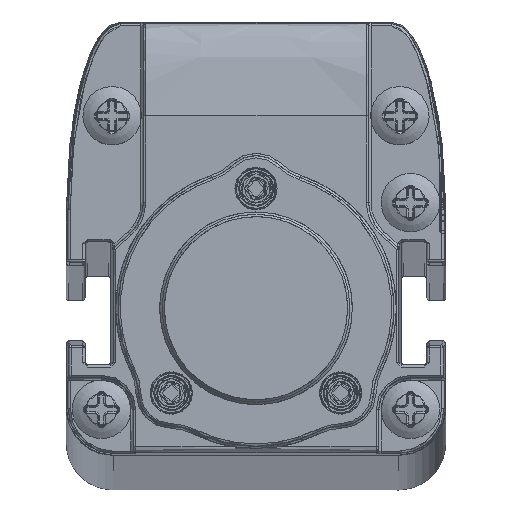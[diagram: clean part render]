
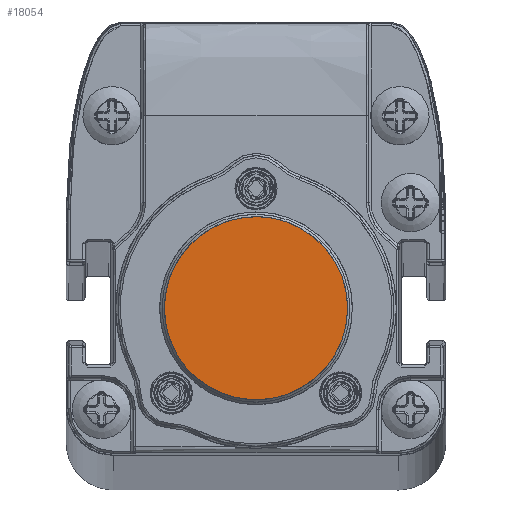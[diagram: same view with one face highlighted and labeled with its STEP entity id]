
A CAD part, top view. The second image highlights one B-rep face of the part: STEP entity #18054.
In plain terms, the highlighted planar face has unit normal (0, 0, 1).
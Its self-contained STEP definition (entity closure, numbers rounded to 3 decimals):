
#15286=B_SPLINE_CURVE_WITH_KNOTS('',3,(#63465,#63466,#63467,#63468,#63469,
#63470,#63471,#63472,#63473,#63474,#63475,#63476,#63477,#63478,#63479,#63480,
#63481,#63482,#63483,#63484,#63485,#63486,#63487,#63488,#63489,#63490,#63491,
#63492,#63493,#63494,#63495,#63496,#63497,#63498,#63499,#63500,#63501,#63502,
#63503,#63504,#63505,#63506,#63507,#63508,#63509,#63510,#63511,#63512,#63513,
#63514,#63515,#63516,#63517,#63518,#63519,#63520,#63521,#63522,#63523,#63524,
#63525,#63526,#63527,#63528,#63529,#63530,#63531,#63532,#63533,#63534,#63535,
#63536,#63537,#63538,#63539,#63540,#63541,#63542,#63543,#63544,#63545,#63546,
#63547,#63548,#63549,#63550,#63551,#63552,#63553,#63554,#63555,#63556,#63557,
#63558,#63559,#63560,#63561,#63562,#63563,#63564,#63565,#63566,#63567),
 .UNSPECIFIED.,.T.,.F.,(1,3,3,3,3,3,3,3,3,3,3,3,3,3,3,3,3,3,3,3,3,3,3,3,
3,3,3,3,3,3,3,3,3,3,3,3,1),(-0.029,0.,0.029,0.059,
0.088,0.118,0.147,0.176,
0.206,0.235,0.265,0.294,
0.324,0.353,0.382,0.412,
0.441,0.471,0.5,0.529,0.559,
0.588,0.618,0.647,0.676,
0.706,0.735,0.765,0.794,
0.824,0.853,0.882,0.912,
0.941,0.971,1.,1.029),.UNSPECIFIED.);
#18054=ADVANCED_FACE('',(#20055),#18952,.T.);
#18952=PLANE('',#43476);
#20055=FACE_OUTER_BOUND('',#21537,.T.);
#21537=EDGE_LOOP('',(#27874));
#27874=ORIENTED_EDGE('',*,*,#36843,.T.);
#31910=VERTEX_POINT('',#63568);
#36843=EDGE_CURVE('',#31910,#31910,#15286,.T.);
#43476=AXIS2_PLACEMENT_3D('',#63569,#47426,#47427);
#47426=DIRECTION('',(0.,0.,1.));
#47427=DIRECTION('',(1.,0.,0.));
#63465=CARTESIAN_POINT('',(7.8,0.,1733.34));
#63466=CARTESIAN_POINT('',(7.8,0.465,1733.34));
#63467=CARTESIAN_POINT('',(7.759,0.925,1733.34));
#63468=CARTESIAN_POINT('',(7.679,1.376,1733.34));
#63469=CARTESIAN_POINT('',(7.638,1.601,1733.34));
#63470=CARTESIAN_POINT('',(7.588,1.825,1733.34));
#63471=CARTESIAN_POINT('',(7.527,2.047,1733.34));
#63472=CARTESIAN_POINT('',(7.466,2.269,1733.34));
#63473=CARTESIAN_POINT('',(7.407,2.458,1733.34));
#63474=CARTESIAN_POINT('',(7.315,2.708,1733.34));
#63475=CARTESIAN_POINT('',(7.129,3.209,1733.34));
#63476=CARTESIAN_POINT('',(6.898,3.683,1733.34));
#63477=CARTESIAN_POINT('',(6.62,4.128,1733.34));
#63478=CARTESIAN_POINT('',(6.343,4.573,1733.34));
#63479=CARTESIAN_POINT('',(6.043,4.965,1733.34));
#63480=CARTESIAN_POINT('',(5.651,5.376,1733.34));
#63481=CARTESIAN_POINT('',(4.868,6.2,1733.34));
#63482=CARTESIAN_POINT('',(3.912,6.837,1733.34));
#63483=CARTESIAN_POINT('',(2.89,7.245,1733.34));
#63484=CARTESIAN_POINT('',(2.378,7.449,1733.34));
#63485=CARTESIAN_POINT('',(1.856,7.597,1733.34));
#63486=CARTESIAN_POINT('',(1.324,7.689,1733.34));
#63487=CARTESIAN_POINT('',(1.058,7.734,1733.34));
#63488=CARTESIAN_POINT('',(0.79,7.766,1733.34));
#63489=CARTESIAN_POINT('',(0.52,7.784,1733.34));
#63490=CARTESIAN_POINT('',(0.249,7.801,1733.34));
#63491=CARTESIAN_POINT('',(-0.055,7.804,1733.34));
#63492=CARTESIAN_POINT('',(-0.3,7.794,1733.34));
#63493=CARTESIAN_POINT('',(-0.79,7.775,1733.34));
#63494=CARTESIAN_POINT('',(-1.271,7.712,1733.34));
#63495=CARTESIAN_POINT('',(-1.742,7.604,1733.34));
#63496=CARTESIAN_POINT('',(-2.213,7.496,1733.34));
#63497=CARTESIAN_POINT('',(-2.713,7.327,1733.34));
#63498=CARTESIAN_POINT('',(-3.123,7.147,1733.34));
#63499=CARTESIAN_POINT('',(-3.534,6.968,1733.34));
#63500=CARTESIAN_POINT('',(-3.924,6.757,1733.34));
#63501=CARTESIAN_POINT('',(-4.293,6.513,1733.34));
#63502=CARTESIAN_POINT('',(-4.477,6.392,1733.34));
#63503=CARTESIAN_POINT('',(-4.656,6.262,1733.34));
#63504=CARTESIAN_POINT('',(-4.83,6.125,1733.34));
#63505=CARTESIAN_POINT('',(-5.004,5.987,1733.34));
#63506=CARTESIAN_POINT('',(-5.15,5.864,1733.34));
#63507=CARTESIAN_POINT('',(-5.337,5.688,1733.34));
#63508=CARTESIAN_POINT('',(-5.712,5.337,1733.34));
#63509=CARTESIAN_POINT('',(-6.047,4.956,1733.34));
#63510=CARTESIAN_POINT('',(-6.341,4.545,1733.34));
#63511=CARTESIAN_POINT('',(-6.635,4.134,1733.34));
#63512=CARTESIAN_POINT('',(-6.869,3.738,1733.34));
#63513=CARTESIAN_POINT('',(-7.102,3.226,1733.34));
#63514=CARTESIAN_POINT('',(-7.567,2.203,1733.34));
#63515=CARTESIAN_POINT('',(-7.8,1.124,1733.34));
#63516=CARTESIAN_POINT('',(-7.8,0.,1733.34));
#63517=CARTESIAN_POINT('',(-7.8,-0.562,1733.34));
#63518=CARTESIAN_POINT('',(-7.742,-1.113,1733.34));
#63519=CARTESIAN_POINT('',(-7.626,-1.651,1733.34));
#63520=CARTESIAN_POINT('',(-7.509,-2.189,1733.34));
#63521=CARTESIAN_POINT('',(-7.314,-2.758,1733.34));
#63522=CARTESIAN_POINT('',(-7.102,-3.226,1733.34));
#63523=CARTESIAN_POINT('',(-6.889,-3.694,1733.34));
#63524=CARTESIAN_POINT('',(-6.636,-4.134,1733.34));
#63525=CARTESIAN_POINT('',(-6.341,-4.544,1733.34));
#63526=CARTESIAN_POINT('',(-6.194,-4.75,1733.34));
#63527=CARTESIAN_POINT('',(-6.037,-4.947,1733.34));
#63528=CARTESIAN_POINT('',(-5.87,-5.138,1733.34));
#63529=CARTESIAN_POINT('',(-5.702,-5.329,1733.34));
#63530=CARTESIAN_POINT('',(-5.5,-5.535,1733.34));
#63531=CARTESIAN_POINT('',(-5.337,-5.688,1733.34));
#63532=CARTESIAN_POINT('',(-5.01,-5.995,1733.34));
#63533=CARTESIAN_POINT('',(-4.662,-6.27,1733.34));
#63534=CARTESIAN_POINT('',(-4.293,-6.513,1733.34));
#63535=CARTESIAN_POINT('',(-3.924,-6.756,1733.34));
#63536=CARTESIAN_POINT('',(-3.573,-6.951,1733.34));
#63537=CARTESIAN_POINT('',(-3.123,-7.147,1733.34));
#63538=CARTESIAN_POINT('',(-2.674,-7.344,1733.34));
#63539=CARTESIAN_POINT('',(-2.213,-7.496,1733.34));
#63540=CARTESIAN_POINT('',(-1.743,-7.604,1733.34));
#63541=CARTESIAN_POINT('',(-1.507,-7.658,1733.34));
#63542=CARTESIAN_POINT('',(-1.27,-7.701,1733.34));
#63543=CARTESIAN_POINT('',(-1.029,-7.732,1733.34));
#63544=CARTESIAN_POINT('',(-0.789,-7.764,1733.34));
#63545=CARTESIAN_POINT('',(-0.575,-7.784,1733.34));
#63546=CARTESIAN_POINT('',(-0.3,-7.794,1733.34));
#63547=CARTESIAN_POINT('',(0.801,-7.837,1733.34));
#63548=CARTESIAN_POINT('',(1.834,-7.666,1733.34));
#63549=CARTESIAN_POINT('',(2.89,-7.245,1733.34));
#63550=CARTESIAN_POINT('',(3.417,-7.035,1733.34));
#63551=CARTESIAN_POINT('',(3.912,-6.774,1733.34));
#63552=CARTESIAN_POINT('',(4.372,-6.462,1733.34));
#63553=CARTESIAN_POINT('',(4.833,-6.15,1733.34));
#63554=CARTESIAN_POINT('',(5.283,-5.763,1733.34));
#63555=CARTESIAN_POINT('',(5.651,-5.376,1733.34));
#63556=CARTESIAN_POINT('',(6.019,-4.989,1733.34));
#63557=CARTESIAN_POINT('',(6.342,-4.573,1733.34));
#63558=CARTESIAN_POINT('',(6.62,-4.128,1733.34));
#63559=CARTESIAN_POINT('',(6.759,-3.906,1733.34));
#63560=CARTESIAN_POINT('',(6.886,-3.676,1733.34));
#63561=CARTESIAN_POINT('',(7.002,-3.44,1733.34));
#63562=CARTESIAN_POINT('',(7.117,-3.203,1733.34));
#63563=CARTESIAN_POINT('',(7.234,-2.926,1733.34));
#63564=CARTESIAN_POINT('',(7.315,-2.708,1733.34));
#63565=CARTESIAN_POINT('',(7.638,-1.835,1733.34));
#63566=CARTESIAN_POINT('',(7.8,-0.933,1733.34));
#63567=CARTESIAN_POINT('',(7.8,0.,1733.34));
#63568=CARTESIAN_POINT('',(7.8,0.,1733.34));
#63569=CARTESIAN_POINT('',(-8.9,-8.81,1733.34));
